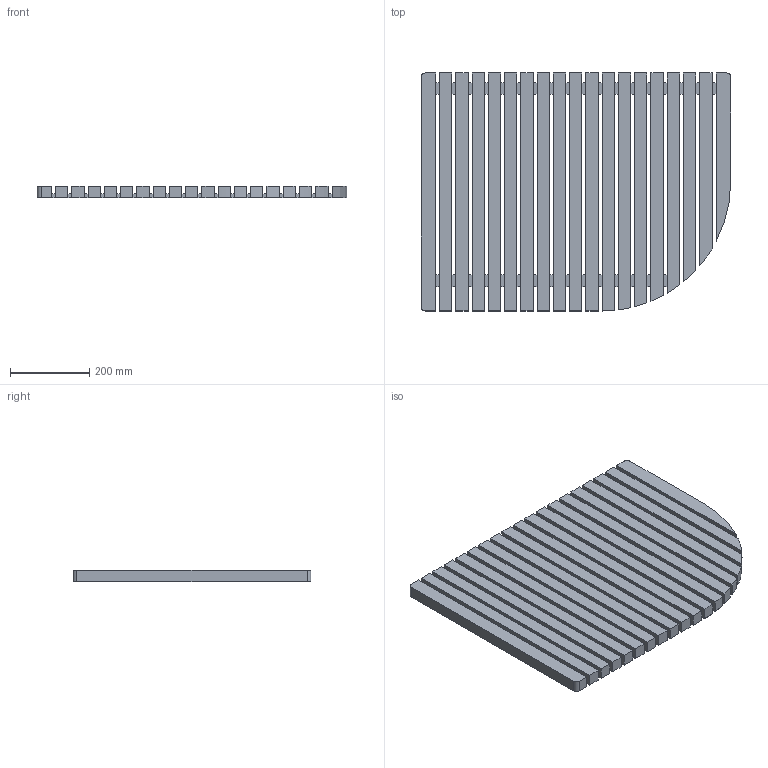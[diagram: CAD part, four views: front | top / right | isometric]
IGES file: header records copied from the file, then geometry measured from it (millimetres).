
Start section: START RECORD GO HERE.
Global section: file name: 1019DX_3D.igs; native system: DASSAULT SYSTEMES CATIA V5 R19 - www.3ds.com; preprocessor: CATIA Version 5 Release 19 SP 5 ; author: gioge; organization: LAPTOP-G94B6G74; date: 20201022.153009; units: millimetre
Bounding box: 780 x 600 x 30 mm (x, y, z)
Surface area: 1379139.5 mm2 (no closed solid volume)
Topology: 0 solids, 0 shells, 198 faces, 1266 edges, 1266 vertices
Faces by surface type: plane 187, revolution 11
